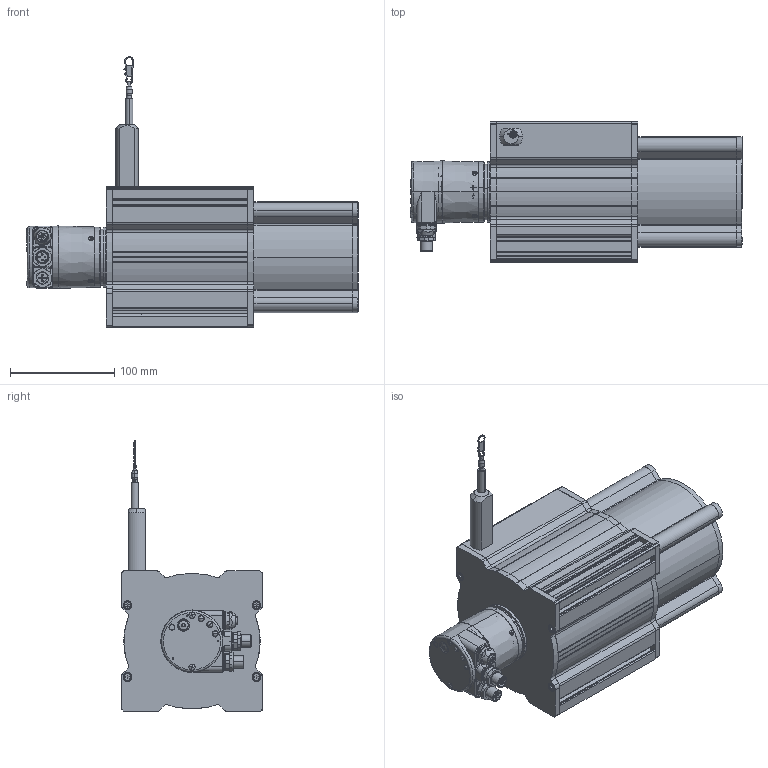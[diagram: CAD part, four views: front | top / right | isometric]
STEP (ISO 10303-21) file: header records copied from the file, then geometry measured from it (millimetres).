
FILE_DESCRIPTION (( 'STEP AP214' ), '1' );
FILE_NAME ('D8.4D1.4000.6832.3113.STEP', '2009-05-13T08:19:05', ( 'admin' ), ( 'Fritz Kübler GmbH' ), 'SwSTEP 2.0', 'SolidWorks 2009', '' );
FILE_SCHEMA (( 'AUTOMOTIVE_DESIGN' ));
Length unit declared in the file: millimetre
Products named in the file (1): D8.4D1.4000.6832.3113
Bounding box: 319.15 x 135 x 260.32 mm (x, y, z)
Volume: 786822.4 mm3; surface area: 439874.9 mm2
Topology: 38 solids, 39 shells, 2319 faces, 5963 edges, 3773 vertices
Faces by surface type: cylinder 1023, plane 737, cone 309, torus 169, bspline 50, sphere 31
Entity records: 101091 total; most frequent: CARTESIAN_POINT 17730, DIRECTION 12719, ORIENTED_EDGE 11746, EDGE_CURVE 5873, AXIS2_PLACEMENT_3D 5021, VERTEX_POINT 3760, CIRCLE 2751, VECTOR 2677
